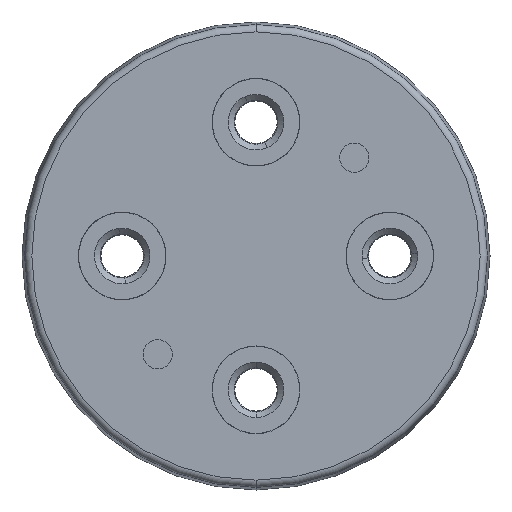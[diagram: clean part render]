
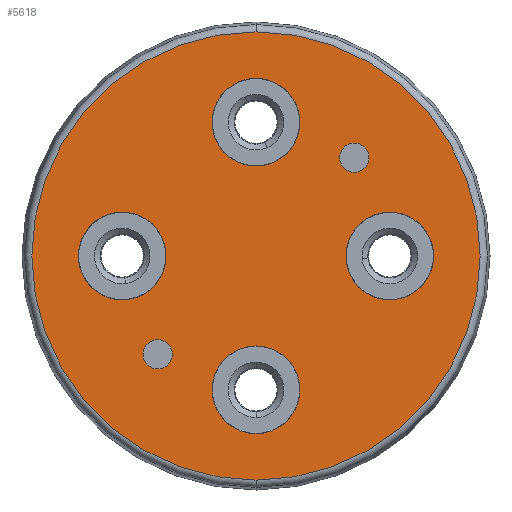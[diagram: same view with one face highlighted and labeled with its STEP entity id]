
A CAD part, front view. The second image highlights one B-rep face of the part: STEP entity #5618.
In plain terms, the highlighted planar face has unit normal (0, -1, 0).
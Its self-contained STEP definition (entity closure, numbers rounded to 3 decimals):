
#1268 = DIRECTION ( 'NONE',  ( 0., -1., 0. ) ) ;
#1269 = DIRECTION ( 'NONE',  ( 0., 0., 1. ) ) ;
#1288 = CARTESIAN_POINT ( 'NONE',  ( 0., 0., 0. ) ) ;
#1405 = CARTESIAN_POINT ( 'NONE',  ( -6.72, 0., -6.72 ) ) ;
#1406 = DIRECTION ( 'NONE',  ( 0., -1., 0. ) ) ;
#1408 = DIRECTION ( 'NONE',  ( 0., 0., -1. ) ) ;
#1491 = DIRECTION ( 'NONE',  ( 0., -1., 0. ) ) ;
#1497 = DIRECTION ( 'NONE',  ( 0., 0., -1. ) ) ;
#1503 = DIRECTION ( 'NONE',  ( 0., -1., 0. ) ) ;
#1510 = CARTESIAN_POINT ( 'NONE',  ( 0., 0., 0. ) ) ;
#1514 = DIRECTION ( 'NONE',  ( 0., 0., 1. ) ) ;
#1524 = CARTESIAN_POINT ( 'NONE',  ( 0., 0., -9.15 ) ) ;
#1630 = AXIS2_PLACEMENT_3D ( 'NONE', #2590, #2565, #2556 ) ;
#1758 = CIRCLE ( 'NONE', #1762, 1. ) ;
#1762 = AXIS2_PLACEMENT_3D ( 'NONE', #5735, #5744, #5746 ) ;
#1927 = CARTESIAN_POINT ( 'NONE',  ( 6.72, 0., 7.72 ) ) ;
#1943 = CARTESIAN_POINT ( 'NONE',  ( 0., 0., -15.328 ) ) ;
#2011 = CARTESIAN_POINT ( 'NONE',  ( -9.15, 0., 2.985 ) ) ;
#2012 = CARTESIAN_POINT ( 'NONE',  ( -9.15, 0., -2.985 ) ) ;
#2016 = CARTESIAN_POINT ( 'NONE',  ( 0., 0., 6.165 ) ) ;
#2020 = CARTESIAN_POINT ( 'NONE',  ( 0., 0., 12.135 ) ) ;
#2021 = CARTESIAN_POINT ( 'NONE',  ( 0., 0., -12.135 ) ) ;
#2051 = CARTESIAN_POINT ( 'NONE',  ( 0., 0., -6.165 ) ) ;
#2067 = CARTESIAN_POINT ( 'NONE',  ( 9.15, 0., 2.985 ) ) ;
#2098 = CARTESIAN_POINT ( 'NONE',  ( 0., 0., 15.328 ) ) ;
#2102 = CARTESIAN_POINT ( 'NONE',  ( 9.15, 0., -2.985 ) ) ;
#2115 = CARTESIAN_POINT ( 'NONE',  ( 6.72, 0., 5.72 ) ) ;
#2215 = CARTESIAN_POINT ( 'NONE',  ( -6.72, 0., -7.72 ) ) ;
#2237 = CARTESIAN_POINT ( 'NONE',  ( -6.72, 0., -5.72 ) ) ;
#2546 = FACE_BOUND ( 'NONE', #4965, .T. ) ;
#2556 = DIRECTION ( 'NONE',  ( 0., 0., 1. ) ) ;
#2558 = FACE_BOUND ( 'NONE', #4990, .T. ) ;
#2562 = FACE_BOUND ( 'NONE', #4997, .T. ) ;
#2565 = DIRECTION ( 'NONE',  ( 0., 1., 0. ) ) ;
#2568 = FACE_BOUND ( 'NONE', #4992, .T. ) ;
#2569 = PLANE ( 'NONE',  #1630 ) ;
#2577 = FACE_OUTER_BOUND ( 'NONE', #4966, .T. ) ;
#2582 = FACE_BOUND ( 'NONE', #4983, .T. ) ;
#2590 = CARTESIAN_POINT ( 'NONE',  ( 0., 0., 0. ) ) ;
#2593 = FACE_BOUND ( 'NONE', #4971, .T. ) ;
#2980 = EDGE_CURVE ( 'NONE', #4590, #4591, #6303, .T. ) ;
#2987 = EDGE_CURVE ( 'NONE', #5448, #4349, #6366, .T. ) ;
#2999 = EDGE_CURVE ( 'NONE', #5514, #5499, #6353, .T. ) ;
#3017 = EDGE_CURVE ( 'NONE', #4658, #4595, #6377, .T. ) ;
#3032 = EDGE_CURVE ( 'NONE', #4662, #4691, #6449, .T. ) ;
#3176 = EDGE_CURVE ( 'NONE', #4586, #4602, #6076, .T. ) ;
#3185 = EDGE_CURVE ( 'NONE', #4591, #4590, #6060, .T. ) ;
#3186 = EDGE_CURVE ( 'NONE', #4602, #4586, #6077, .T. ) ;
#3200 = EDGE_CURVE ( 'NONE', #4691, #4662, #6115, .T. ) ;
#3222 = EDGE_CURVE ( 'NONE', #4595, #4658, #6139, .T. ) ;
#3223 = EDGE_CURVE ( 'NONE', #5498, #4354, #6154, .T. ) ;
#3260 = EDGE_CURVE ( 'NONE', #4354, #5498, #6131, .T. ) ;
#3282 = EDGE_CURVE ( 'NONE', #5499, #5514, #6209, .T. ) ;
#3313 = EDGE_CURVE ( 'NONE', #4349, #5448, #1758, .T. ) ;
#3780 = CARTESIAN_POINT ( 'NONE',  ( 6.72, 0., 6.72 ) ) ;
#3782 = DIRECTION ( 'NONE',  ( 0., -1., 0. ) ) ;
#3792 = DIRECTION ( 'NONE',  ( 0., 0., -1. ) ) ;
#3794 = DIRECTION ( 'NONE',  ( 0., -1., 0. ) ) ;
#3807 = CARTESIAN_POINT ( 'NONE',  ( -9.15, 0., 0. ) ) ;
#3811 = DIRECTION ( 'NONE',  ( 0., 0., -1. ) ) ;
#3825 = DIRECTION ( 'NONE',  ( 0., -1., 0. ) ) ;
#3834 = CARTESIAN_POINT ( 'NONE',  ( -6.72, 0., -6.72 ) ) ;
#3858 = DIRECTION ( 'NONE',  ( 0., 0., -1. ) ) ;
#3882 = CARTESIAN_POINT ( 'NONE',  ( 0., 0., -9.15 ) ) ;
#3884 = DIRECTION ( 'NONE',  ( 0., -1., 0. ) ) ;
#3885 = DIRECTION ( 'NONE',  ( 0., 0., -1. ) ) ;
#3942 = CARTESIAN_POINT ( 'NONE',  ( 9.15, 0., 0. ) ) ;
#3945 = DIRECTION ( 'NONE',  ( 0., -1., 0. ) ) ;
#3977 = DIRECTION ( 'NONE',  ( 0., 0., -1. ) ) ;
#4349 = VERTEX_POINT ( 'NONE', #1927 ) ;
#4354 = VERTEX_POINT ( 'NONE', #1943 ) ;
#4586 = VERTEX_POINT ( 'NONE', #2016 ) ;
#4590 = VERTEX_POINT ( 'NONE', #2011 ) ;
#4591 = VERTEX_POINT ( 'NONE', #2012 ) ;
#4595 = VERTEX_POINT ( 'NONE', #2021 ) ;
#4602 = VERTEX_POINT ( 'NONE', #2020 ) ;
#4658 = VERTEX_POINT ( 'NONE', #2051 ) ;
#4662 = VERTEX_POINT ( 'NONE', #2067 ) ;
#4691 = VERTEX_POINT ( 'NONE', #2102 ) ;
#4965 = EDGE_LOOP ( 'NONE', ( #5790, #5799 ) ) ;
#4966 = EDGE_LOOP ( 'NONE', ( #5811, #5810 ) ) ;
#4971 = EDGE_LOOP ( 'NONE', ( #5805, #5824 ) ) ;
#4983 = EDGE_LOOP ( 'NONE', ( #5787, #5837 ) ) ;
#4990 = EDGE_LOOP ( 'NONE', ( #5815, #5782 ) ) ;
#4992 = EDGE_LOOP ( 'NONE', ( #5809, #5795 ) ) ;
#4997 = EDGE_LOOP ( 'NONE', ( #5792, #5793 ) ) ;
#5448 = VERTEX_POINT ( 'NONE', #2115 ) ;
#5498 = VERTEX_POINT ( 'NONE', #2098 ) ;
#5499 = VERTEX_POINT ( 'NONE', #2237 ) ;
#5514 = VERTEX_POINT ( 'NONE', #2215 ) ;
#5618 = ADVANCED_FACE ( 'NONE', ( #2577, #2593, #2546, #2568, #2558, #2562, #2582 ), #2569, .F. ) ;
#5735 = CARTESIAN_POINT ( 'NONE',  ( 6.72, 0., 6.72 ) ) ;
#5744 = DIRECTION ( 'NONE',  ( 0., -1., 0. ) ) ;
#5746 = DIRECTION ( 'NONE',  ( 0., 0., -1. ) ) ;
#5782 = ORIENTED_EDGE ( 'NONE', *, *, #3017, .F. ) ;
#5787 = ORIENTED_EDGE ( 'NONE', *, *, #2999, .F. ) ;
#5790 = ORIENTED_EDGE ( 'NONE', *, *, #3200, .F. ) ;
#5792 = ORIENTED_EDGE ( 'NONE', *, *, #2987, .F. ) ;
#5793 = ORIENTED_EDGE ( 'NONE', *, *, #3313, .F. ) ;
#5795 = ORIENTED_EDGE ( 'NONE', *, *, #2980, .F. ) ;
#5799 = ORIENTED_EDGE ( 'NONE', *, *, #3032, .F. ) ;
#5805 = ORIENTED_EDGE ( 'NONE', *, *, #3176, .F. ) ;
#5809 = ORIENTED_EDGE ( 'NONE', *, *, #3185, .F. ) ;
#5810 = ORIENTED_EDGE ( 'NONE', *, *, #3260, .T. ) ;
#5811 = ORIENTED_EDGE ( 'NONE', *, *, #3223, .T. ) ;
#5815 = ORIENTED_EDGE ( 'NONE', *, *, #3222, .F. ) ;
#5824 = ORIENTED_EDGE ( 'NONE', *, *, #3186, .F. ) ;
#5837 = ORIENTED_EDGE ( 'NONE', *, *, #3282, .F. ) ;
#6060 = CIRCLE ( 'NONE', #6088, 2.985 ) ;
#6076 = CIRCLE ( 'NONE', #6078, 2.985 ) ;
#6077 = CIRCLE ( 'NONE', #6113, 2.985 ) ;
#6078 = AXIS2_PLACEMENT_3D ( 'NONE', #6824, #6789, #6822 ) ;
#6088 = AXIS2_PLACEMENT_3D ( 'NONE', #6810, #6813, #6826 ) ;
#6113 = AXIS2_PLACEMENT_3D ( 'NONE', #6867, #6859, #6843 ) ;
#6115 = CIRCLE ( 'NONE', #6118, 2.985 ) ;
#6118 = AXIS2_PLACEMENT_3D ( 'NONE', #6853, #6911, #6891 ) ;
#6131 = CIRCLE ( 'NONE', #6138, 15.328 ) ;
#6135 = AXIS2_PLACEMENT_3D ( 'NONE', #1510, #1503, #1514 ) ;
#6138 = AXIS2_PLACEMENT_3D ( 'NONE', #1288, #1268, #1269 ) ;
#6139 = CIRCLE ( 'NONE', #6163, 2.985 ) ;
#6154 = CIRCLE ( 'NONE', #6135, 15.328 ) ;
#6163 = AXIS2_PLACEMENT_3D ( 'NONE', #1524, #1491, #1497 ) ;
#6204 = AXIS2_PLACEMENT_3D ( 'NONE', #1405, #1406, #1408 ) ;
#6209 = CIRCLE ( 'NONE', #6204, 1. ) ;
#6303 = CIRCLE ( 'NONE', #6306, 2.985 ) ;
#6306 = AXIS2_PLACEMENT_3D ( 'NONE', #3807, #3794, #3792 ) ;
#6353 = CIRCLE ( 'NONE', #6375, 1. ) ;
#6366 = CIRCLE ( 'NONE', #6387, 1. ) ;
#6375 = AXIS2_PLACEMENT_3D ( 'NONE', #3834, #3825, #3858 ) ;
#6377 = CIRCLE ( 'NONE', #6378, 2.985 ) ;
#6378 = AXIS2_PLACEMENT_3D ( 'NONE', #3882, #3884, #3885 ) ;
#6387 = AXIS2_PLACEMENT_3D ( 'NONE', #3780, #3782, #3811 ) ;
#6449 = CIRCLE ( 'NONE', #6456, 2.985 ) ;
#6456 = AXIS2_PLACEMENT_3D ( 'NONE', #3942, #3945, #3977 ) ;
#6789 = DIRECTION ( 'NONE',  ( 0., -1., 0. ) ) ;
#6810 = CARTESIAN_POINT ( 'NONE',  ( -9.15, 0., 0. ) ) ;
#6813 = DIRECTION ( 'NONE',  ( 0., -1., 0. ) ) ;
#6822 = DIRECTION ( 'NONE',  ( 0., 0., -1. ) ) ;
#6824 = CARTESIAN_POINT ( 'NONE',  ( 0., 0., 9.15 ) ) ;
#6826 = DIRECTION ( 'NONE',  ( 0., 0., -1. ) ) ;
#6843 = DIRECTION ( 'NONE',  ( 0., 0., -1. ) ) ;
#6853 = CARTESIAN_POINT ( 'NONE',  ( 9.15, 0., 0. ) ) ;
#6859 = DIRECTION ( 'NONE',  ( 0., -1., 0. ) ) ;
#6867 = CARTESIAN_POINT ( 'NONE',  ( 0., 0., 9.15 ) ) ;
#6891 = DIRECTION ( 'NONE',  ( 0., 0., -1. ) ) ;
#6911 = DIRECTION ( 'NONE',  ( 0., -1., 0. ) ) ;
